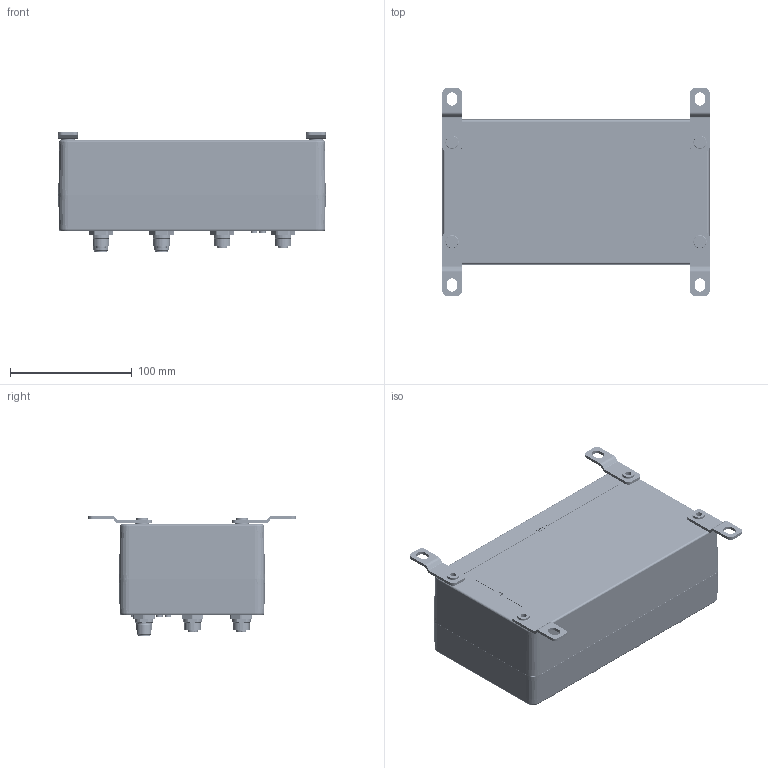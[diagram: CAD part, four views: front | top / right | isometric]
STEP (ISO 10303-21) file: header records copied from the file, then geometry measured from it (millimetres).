
FILE_DESCRIPTION((''),'2;1');
FILE_NAME('STANDARD_ASM','2020-08-31T08:47:20',('11000804'),(''),'CREO PARAMETRIC BY PTC INC, 2019030','CREO PARAMETRIC BY PTC INC, 2019030','');
FILE_SCHEMA(('AUTOMOTIVE_DESIGN { 1 0 10303 214 1 1 1 1 }'));
Products named in the file (22): STANDARD; IMPORTIERT1; IMPORTIERT2; IMPORTIERT3; STANDARD_ASM; IMPORTIERT4
Assembly tree (62 placements, depth 3):
  STANDARD_ASM
    STANDARD
    STANDARD
    STANDARD  x4
    STANDARD  x10
    STANDARD  x4
    STANDARD
    STANDARD_ASM  x8
      IMPORTIERT1
      IMPORTIERT2
      IMPORTIERT3
    STANDARD
    STANDARD_ASM
      IMPORTIERT2
      IMPORTIERT3
      IMPORTIERT4
    STANDARD_ASM
      IMPORTIERT2
      IMPORTIERT3
    STANDARD  x11
    STANDARD
    STANDARD  x10
Bounding box: 220 x 171 x 99.1 mm (x, y, z)
Volume: 330866.7 mm3; surface area: 311434.6 mm2
Topology: 72 solids, 90 shells, 9165 faces, 25724 edges, 17543 vertices
Faces by surface type: plane 3655, cylinder 2297, extrusion 1697, cone 909, torus 429, bspline 95, sphere 83
Entity records: 218216 total; most frequent: CARTESIAN_POINT 59878, ORIENTED_EDGE 21726, DIRECTION 19779, PRESENTATION_STYLE_ASSIGNMENT 11896, STYLED_ITEM 11005, CURVE_STYLE 10975, EDGE_CURVE 10882, VERTEX_POINT 7225
